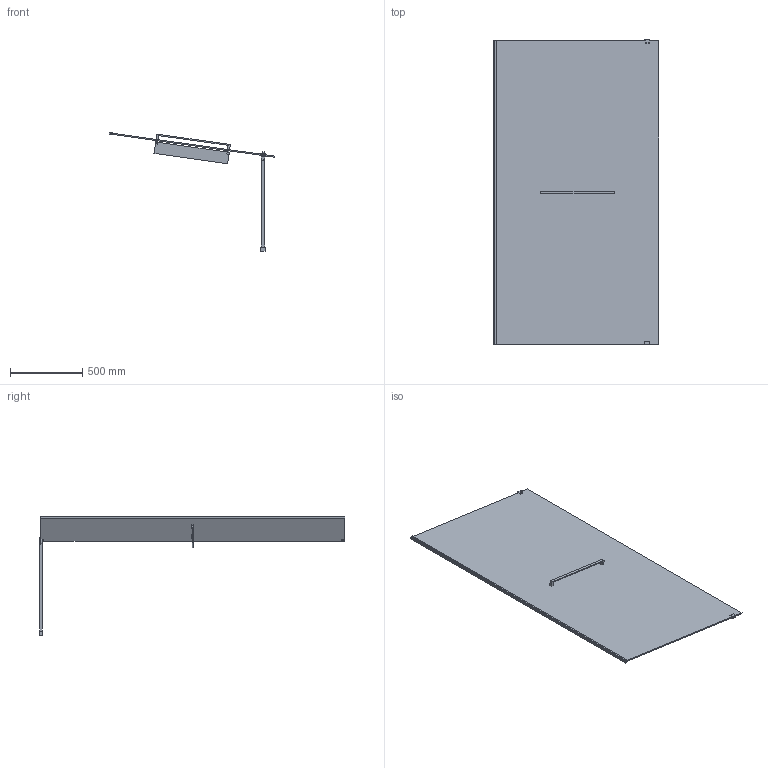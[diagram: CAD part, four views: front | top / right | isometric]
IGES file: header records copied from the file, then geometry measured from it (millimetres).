
Start section: SolidWorks IGES file using analytic representation for surfaces
Global section: file name: D:\Users\M.Szymanski\Desktop\Kabiny\PT\03. do przegrania\PT_ALTIIa_120_z_relingiem_i_polka_K3D.IGS; native system: SolidWorks 2011; preprocessor: SolidWorks 2011; author: M.Szymanski; date: 181004.121750; units: millimetre
Bounding box: 1146.95 x 2115 x 823.54 mm (x, y, z)
Surface area: 5276609.1 mm2 (no closed solid volume)
Topology: 0 solids, 0 shells, 90 faces, 675 edges, 900 vertices
Faces by surface type: bspline 84, revolution 6
